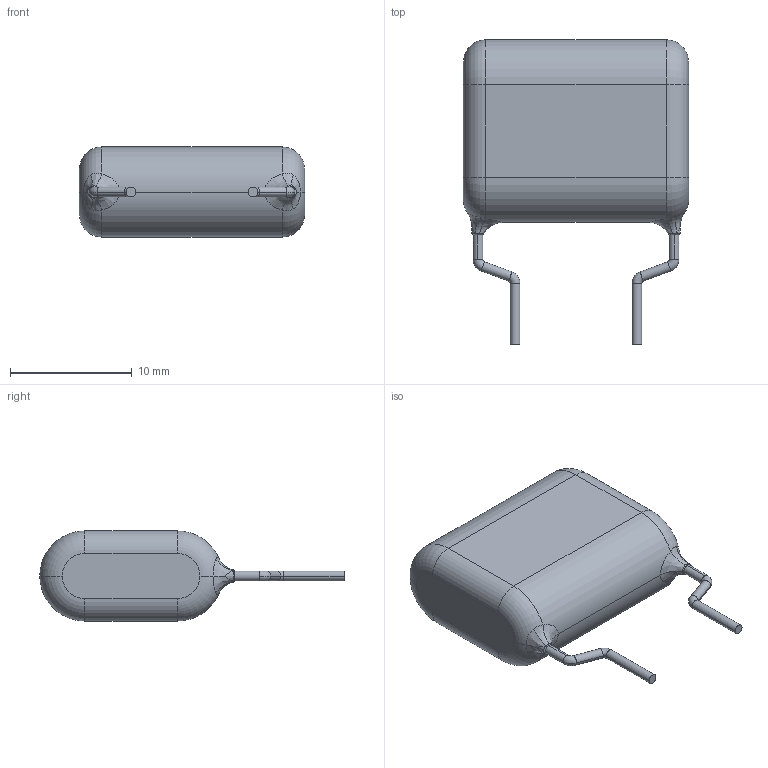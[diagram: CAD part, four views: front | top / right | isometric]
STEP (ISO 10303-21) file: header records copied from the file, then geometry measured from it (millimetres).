
FILE_DESCRIPTION (( 'STEP AP214' ), '1' );
FILE_NAME ('ECQE2105JFB.STEP', '2021-05-26T12:29:58', ( '' ), ( '' ), 'SwSTEP 2.0', 'SolidWorks 2020', '' );
FILE_SCHEMA (( 'AUTOMOTIVE_DESIGN' ));
Length unit declared in the file: millimetre
Products named in the file (1): ECQE2105JFB
Bounding box: 18.5 x 25 x 7.4 mm (x, y, z)
Volume: 1798.5 mm3; surface area: 909.3 mm2
Topology: 3 solids, 3 shells, 64 faces, 140 edges, 82 vertices
Faces by surface type: torus 20, cylinder 20, bspline 12, plane 10, cone 2
Entity records: 2198 total; most frequent: CARTESIAN_POINT 779, DIRECTION 304, ORIENTED_EDGE 280, EDGE_CURVE 140, AXIS2_PLACEMENT_3D 139, CIRCLE 86, VERTEX_POINT 82, EDGE_LOOP 64
